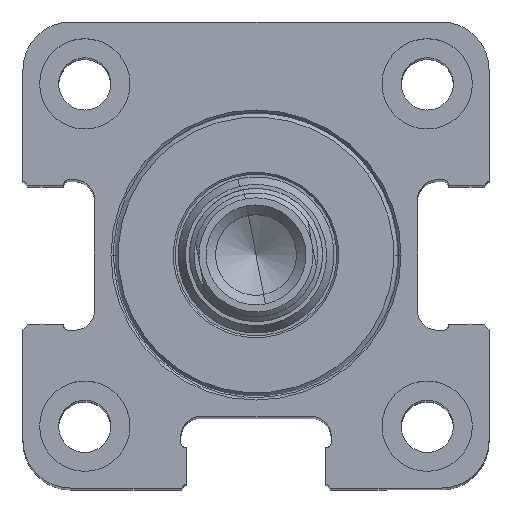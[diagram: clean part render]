
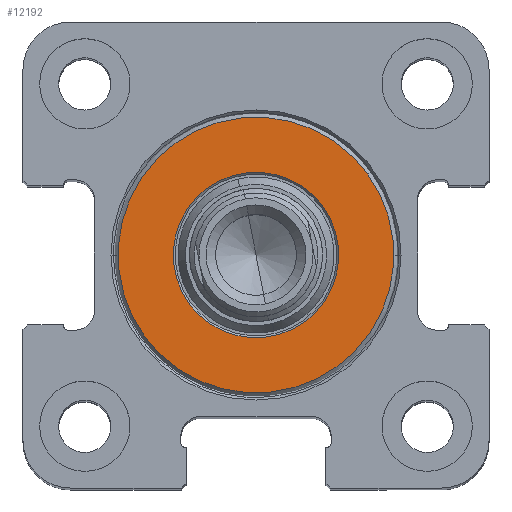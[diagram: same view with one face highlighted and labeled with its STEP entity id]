
A CAD part, top view. The second image highlights one B-rep face of the part: STEP entity #12192.
In plain terms, the highlighted planar face has unit normal (0, 0, 1) as drawn and (-1, 0, 0) by its records, which use the part's own axes.
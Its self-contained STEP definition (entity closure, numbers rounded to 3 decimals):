
#423 = EDGE_CURVE ( 'NONE', #16375, #13192, #9612, .T. ) ;
#761 = DIRECTION ( 'NONE',  ( 0., 0., -1. ) ) ;
#773 = CARTESIAN_POINT ( 'NONE',  ( 0., 7., 0. ) ) ;
#931 = DIRECTION ( 'NONE',  ( 0., 0., -1. ) ) ;
#2042 = CARTESIAN_POINT ( 'NONE',  ( 0., 0., 0. ) ) ;
#2060 = FACE_OUTER_BOUND ( 'NONE', #10694, .T. ) ;
#2146 = DIRECTION ( 'NONE',  ( 0., 0., -1. ) ) ;
#2373 = AXIS2_PLACEMENT_3D ( 'NONE', #9267, #7994, #10630 ) ;
#3215 = CARTESIAN_POINT ( 'NONE',  ( 0., 0., -8.7 ) ) ;
#3413 = DIRECTION ( 'NONE',  ( 0., 0., -1. ) ) ;
#3594 = DIRECTION ( 'NONE',  ( -1., 0., 0. ) ) ;
#4830 = CIRCLE ( 'NONE', #6480, 8.7 ) ;
#5136 = VERTEX_POINT ( 'NONE', #7462 ) ;
#5891 = CIRCLE ( 'NONE', #9733, 14.5 ) ;
#6016 = DIRECTION ( 'NONE',  ( 1., 0., 0. ) ) ;
#6193 = ORIENTED_EDGE ( 'NONE', *, *, #15727, .T. ) ;
#6480 = AXIS2_PLACEMENT_3D ( 'NONE', #8421, #15079, #761 ) ;
#7462 = CARTESIAN_POINT ( 'NONE',  ( 0., 0., 8.7 ) ) ;
#7994 = DIRECTION ( 'NONE',  ( 1., 0., 0. ) ) ;
#8258 = AXIS2_PLACEMENT_3D ( 'NONE', #2042, #12522, #3413 ) ;
#8421 = CARTESIAN_POINT ( 'NONE',  ( 0., 0., 0. ) ) ;
#8688 = FACE_BOUND ( 'NONE', #14560, .T. ) ;
#9087 = EDGE_CURVE ( 'NONE', #5136, #16909, #4830, .T. ) ;
#9267 = CARTESIAN_POINT ( 'NONE',  ( 0., 0., 0. ) ) ;
#9612 = CIRCLE ( 'NONE', #8258, 14.5 ) ;
#9733 = AXIS2_PLACEMENT_3D ( 'NONE', #12431, #3594, #931 ) ;
#9776 = CIRCLE ( 'NONE', #2373, 8.7 ) ;
#9860 = ORIENTED_EDGE ( 'NONE', *, *, #13098, .T. ) ;
#10630 = DIRECTION ( 'NONE',  ( 0., 0., -1. ) ) ;
#10694 = EDGE_LOOP ( 'NONE', ( #10713, #9860 ) ) ;
#10713 = ORIENTED_EDGE ( 'NONE', *, *, #423, .T. ) ;
#12192 = ADVANCED_FACE ( 'NONE', ( #8688, #2060 ), #13900, .F. ) ;
#12431 = CARTESIAN_POINT ( 'NONE',  ( 0., 0., 0. ) ) ;
#12522 = DIRECTION ( 'NONE',  ( -1., 0., 0. ) ) ;
#13098 = EDGE_CURVE ( 'NONE', #13192, #16375, #5891, .T. ) ;
#13192 = VERTEX_POINT ( 'NONE', #14312 ) ;
#13200 = ORIENTED_EDGE ( 'NONE', *, *, #9087, .T. ) ;
#13900 = PLANE ( 'NONE',  #14624 ) ;
#14312 = CARTESIAN_POINT ( 'NONE',  ( 0., 0., 14.5 ) ) ;
#14560 = EDGE_LOOP ( 'NONE', ( #13200, #6193 ) ) ;
#14624 = AXIS2_PLACEMENT_3D ( 'NONE', #773, #6016, #2146 ) ;
#15079 = DIRECTION ( 'NONE',  ( 1., 0., 0. ) ) ;
#15727 = EDGE_CURVE ( 'NONE', #16909, #5136, #9776, .T. ) ;
#16191 = CARTESIAN_POINT ( 'NONE',  ( 0., 0., -14.5 ) ) ;
#16375 = VERTEX_POINT ( 'NONE', #16191 ) ;
#16909 = VERTEX_POINT ( 'NONE', #3215 ) ;
